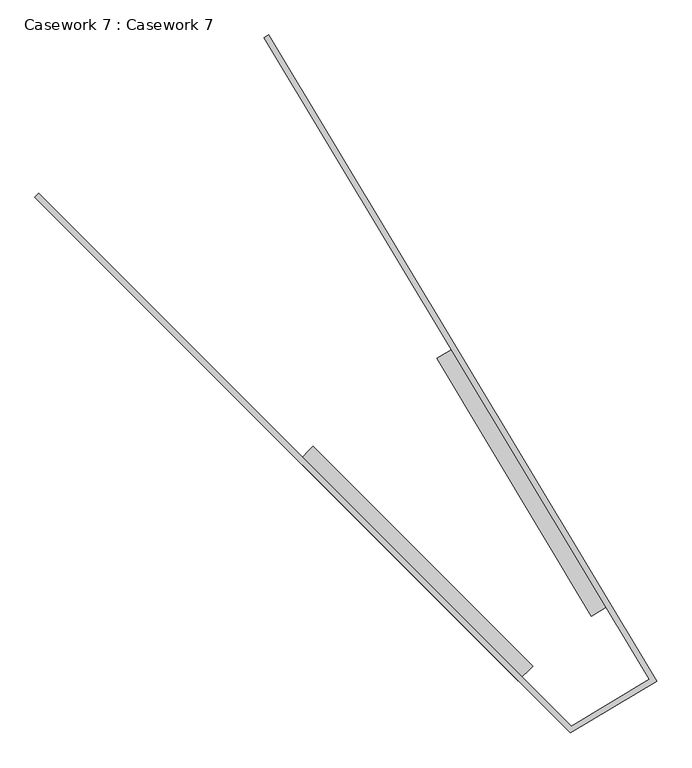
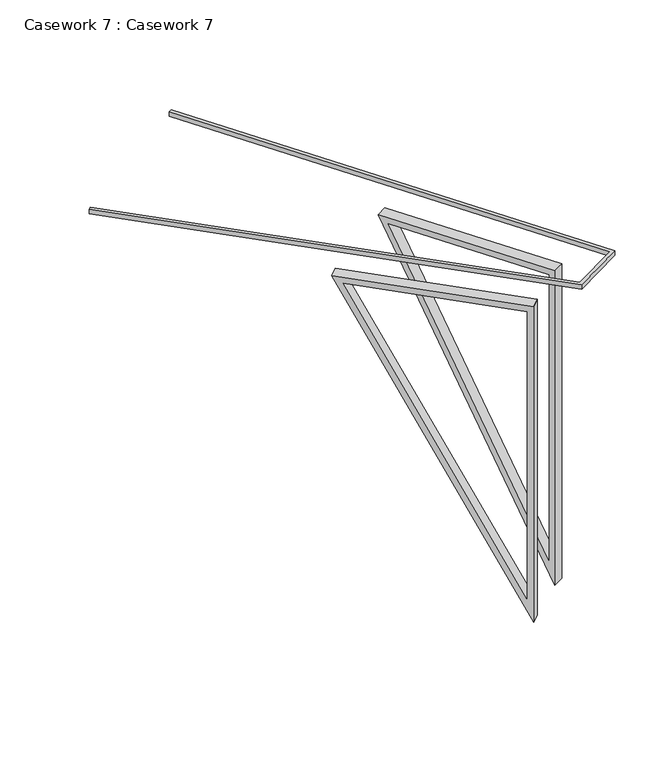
"""IFC4 building model written with IfcOpenShell, lengths in millimetres: furniture geometry, Casework 7 : Casework 7."""

from ifc_helpers import new_model, si_unit, frame, origin, place, context, project, spatial, polyline, outline, extrude, source, transform, mapped, element, save


def casework_7_casework_7_e5262f13(model_context):
    return source(origin(), model_context, "Body", "SweptSolid", [
        extrude(outline(polyline([(-4154.3086892, 12208.7709928), (-4136.6310197, 12226.4486623), (-1590.540873, 9680.3585157), (-1215.970899, 9905.4228621), (-3057.9675906, 12971.0201626), (-3036.5384081, 12983.8961145), (-1181.6657646, 9896.8696315), (-1594.4072334, 9648.869537), (-4154.3086892, 12208.7709928)])), frame((0.0, 0.0, 9309.2540131), z_axis=(0.0, 0.0, 1.0), x_axis=(1.0, 0.0, 0.0)), (0.0, 0.0, 1.0), 40.0),
        extrude(outline(polyline([(2986.3148106, -50.0), (-94.9616482, -50.0), (2317.5023421, 1220.2306863), (2986.3148106, -50.0)]), holes=[polyline([(2903.4810461, 0.0), (2296.554993, 1152.6939662), (107.3206159, 0.0), (2903.4810461, 0.0)])]), frame((-1492.8780169, 10207.77556, 6475.1358345), z_axis=(0.8571673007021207, 0.5150380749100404, 0.0), x_axis=(-0.2399529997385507, 0.3993488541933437, 0.884840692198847)), (0.0, 0.0, 1.0), 100.0),
        extrude(outline(polyline([(-1385.1433559, -50.0), (100.0, 2686.8483554), (100.0, -50.0), (-1385.1433559, -50.0)]), holes=[polyline([(-1301.1236884, 0.0), (49.9999999, 0.0), (49.9999999, 2489.8745497), (-1301.1236884, 0.0)])]), frame((-1915.0633797, 9968.7124764, 9044.2540131), z_axis=(0.7071067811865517, 0.7071067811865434, 0.0), x_axis=(0.7071067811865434, -0.7071067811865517, 0.0)), (0.0, 0.0, 1.0), 100.0),
    ])


if __name__ == "__main__":
    model = new_model("IFC4")
    model_context = context("Model", 3, world=origin())
    ifc_project = project(units=[si_unit("LENGTHUNIT", "METRE", prefix="MILLI")], contexts=[model_context])
    site = spatial("IfcSite", under=ifc_project)
    building = spatial("IfcBuilding", under=site)
    placement = place(None, origin())
    casework_7_casework_7_shape = casework_7_casework_7_e5262f13(model_context)
    element("IfcFurniture", 1, ObjectType="Casework 7 : Casework 7", at=placement, inside=building, context=model_context, shape_type="MappedRepresentation", body=[
        mapped(casework_7_casework_7_shape, transform((0.0, 0.0, 0.0), x_axis=(1.0, 0.0, 0.0), y_axis=(0.0, 1.0, 0.0), z_axis=(0.0, 0.0, 1.0))),
    ])
    save(model, "model.ifc")
